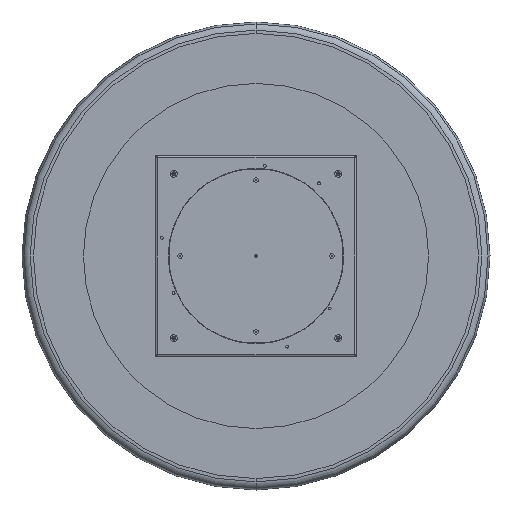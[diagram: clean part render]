
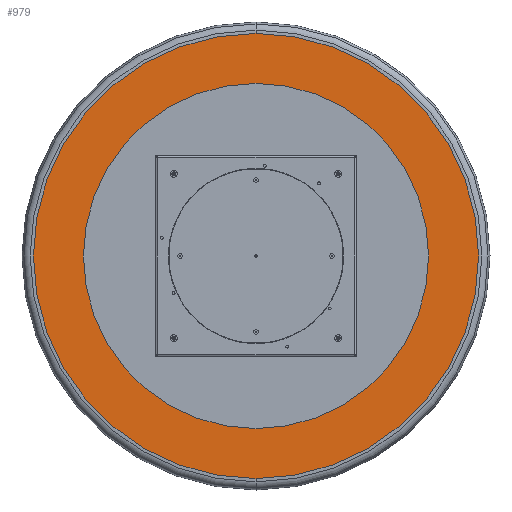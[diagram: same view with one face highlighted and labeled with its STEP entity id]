
A CAD part, front view. The second image highlights one B-rep face of the part: STEP entity #979.
In plain terms, the highlighted planar face has unit normal (0, -1, 0).
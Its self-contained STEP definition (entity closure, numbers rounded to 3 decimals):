
#108 = DIRECTION ( 'NONE',  ( 0., -1., 0. ) ) ;
#519 = FACE_BOUND ( 'NONE', #9540, .T. ) ;
#979 = ADVANCED_FACE ( 'NONE', ( #519, #5719 ), #15605, .T. ) ;
#1199 = CIRCLE ( 'NONE', #10164, 590. ) ;
#1500 = DIRECTION ( 'NONE',  ( 0., 0., -1. ) ) ;
#1582 = CARTESIAN_POINT ( 'NONE',  ( 0., -56., 0. ) ) ;
#2025 = EDGE_CURVE ( 'NONE', #15674, #7601, #15080, .T. ) ;
#2860 = AXIS2_PLACEMENT_3D ( 'NONE', #4308, #9340, #3064 ) ;
#3064 = DIRECTION ( 'NONE',  ( 0., 0., -1. ) ) ;
#3431 = EDGE_CURVE ( 'NONE', #7601, #15674, #3791, .T. ) ;
#3485 = AXIS2_PLACEMENT_3D ( 'NONE', #6863, #13114, #10474 ) ;
#3660 = EDGE_CURVE ( 'NONE', #12001, #8332, #4860, .T. ) ;
#3791 = CIRCLE ( 'NONE', #11149, 761. ) ;
#3994 = CARTESIAN_POINT ( 'NONE',  ( 0., -56., 0. ) ) ;
#4308 = CARTESIAN_POINT ( 'NONE',  ( 0., -56., 761. ) ) ;
#4860 = CIRCLE ( 'NONE', #5643, 590. ) ;
#5079 = ORIENTED_EDGE ( 'NONE', *, *, #3660, .F. ) ;
#5643 = AXIS2_PLACEMENT_3D ( 'NONE', #9977, #6199, #15022 ) ;
#5719 = FACE_OUTER_BOUND ( 'NONE', #10503, .T. ) ;
#6199 = DIRECTION ( 'NONE',  ( 0., -1., 0. ) ) ;
#6271 = CARTESIAN_POINT ( 'NONE',  ( 0., -56., -761. ) ) ;
#6863 = CARTESIAN_POINT ( 'NONE',  ( 0., -56., 0. ) ) ;
#7601 = VERTEX_POINT ( 'NONE', #6271 ) ;
#8332 = VERTEX_POINT ( 'NONE', #11956 ) ;
#9340 = DIRECTION ( 'NONE',  ( 0., -1., 0. ) ) ;
#9540 = EDGE_LOOP ( 'NONE', ( #5079, #14025 ) ) ;
#9939 = ORIENTED_EDGE ( 'NONE', *, *, #2025, .F. ) ;
#9977 = CARTESIAN_POINT ( 'NONE',  ( 0., -56., 0. ) ) ;
#10164 = AXIS2_PLACEMENT_3D ( 'NONE', #3994, #108, #1500 ) ;
#10474 = DIRECTION ( 'NONE',  ( 0., 0., 1. ) ) ;
#10503 = EDGE_LOOP ( 'NONE', ( #9939, #14004 ) ) ;
#11149 = AXIS2_PLACEMENT_3D ( 'NONE', #1582, #14352, #11874 ) ;
#11874 = DIRECTION ( 'NONE',  ( 0., 0., 1. ) ) ;
#11956 = CARTESIAN_POINT ( 'NONE',  ( 0., -56., 590. ) ) ;
#12001 = VERTEX_POINT ( 'NONE', #12161 ) ;
#12044 = CARTESIAN_POINT ( 'NONE',  ( 0., -56., 761. ) ) ;
#12161 = CARTESIAN_POINT ( 'NONE',  ( 0., -56., -590. ) ) ;
#12618 = EDGE_CURVE ( 'NONE', #8332, #12001, #1199, .T. ) ;
#13114 = DIRECTION ( 'NONE',  ( 0., 1., 0. ) ) ;
#14004 = ORIENTED_EDGE ( 'NONE', *, *, #3431, .F. ) ;
#14025 = ORIENTED_EDGE ( 'NONE', *, *, #12618, .F. ) ;
#14352 = DIRECTION ( 'NONE',  ( 0., 1., 0. ) ) ;
#15022 = DIRECTION ( 'NONE',  ( 0., 0., -1. ) ) ;
#15080 = CIRCLE ( 'NONE', #3485, 761. ) ;
#15605 = PLANE ( 'NONE',  #2860 ) ;
#15674 = VERTEX_POINT ( 'NONE', #12044 ) ;
